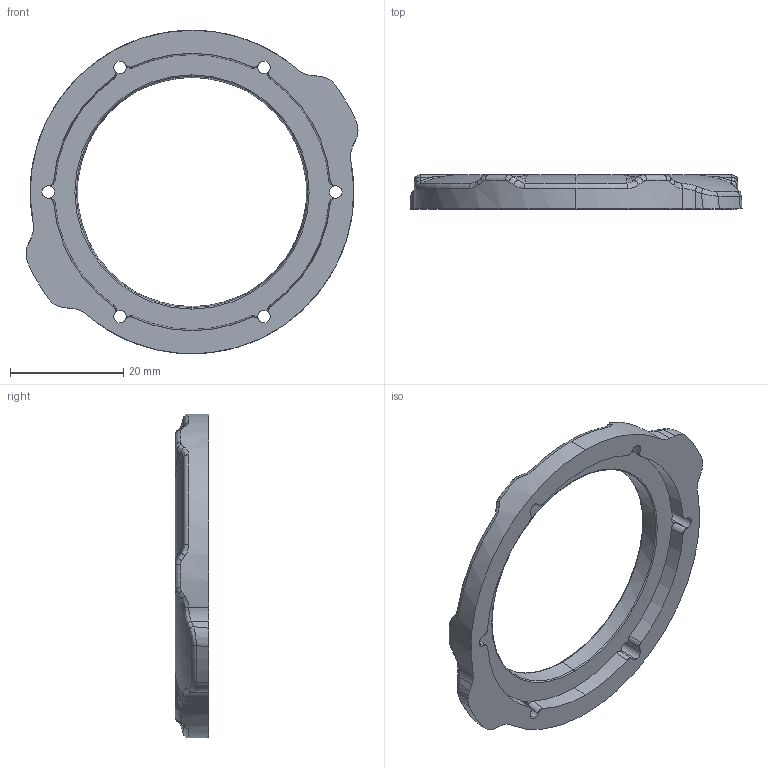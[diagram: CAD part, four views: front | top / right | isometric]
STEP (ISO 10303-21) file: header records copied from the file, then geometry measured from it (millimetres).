
FILE_DESCRIPTION (( 'STEP AP214' ), '1' );
FILE_NAME ('WTE2-P-RETAINING-RING-R1.STEP', '2018-10-16T22:49:46', ( '' ), ( '' ), 'SwSTEP 2.0', 'SolidWorks 2016', '' );
FILE_SCHEMA (( 'AUTOMOTIVE_DESIGN' ));
Length unit declared in the file: millimetre
Products named in the file (1): WTE2-P-RETAINING-RING-R1
Bounding box: 58.64 x 6 x 57.16 mm (x, y, z)
Volume: 5555.3 mm3; surface area: 4433.4 mm2
Topology: 1 solids, 1 shells, 255 faces, 643 edges, 384 vertices
Faces by surface type: bspline 128, torus 49, plane 36, cylinder 31, cone 11
Entity records: 9346 total; most frequent: CARTESIAN_POINT 4083, ORIENTED_EDGE 1286, DIRECTION 898, EDGE_CURVE 643, AXIS2_PLACEMENT_3D 411, VERTEX_POINT 384, CIRCLE 283, EDGE_LOOP 263
